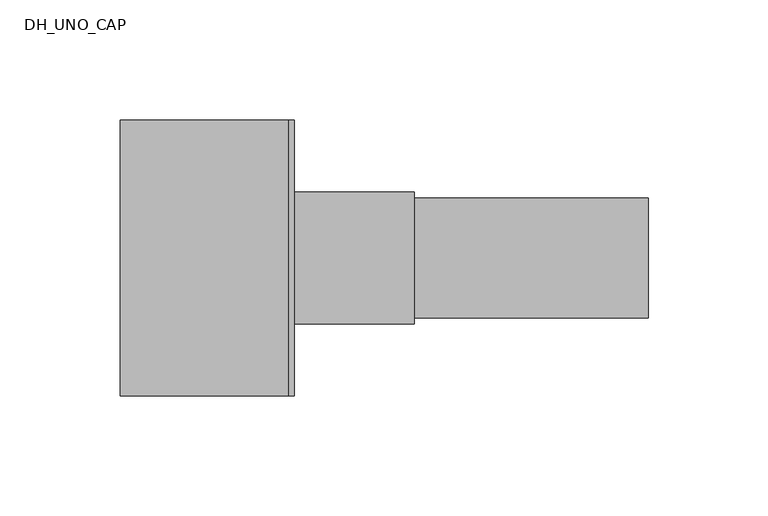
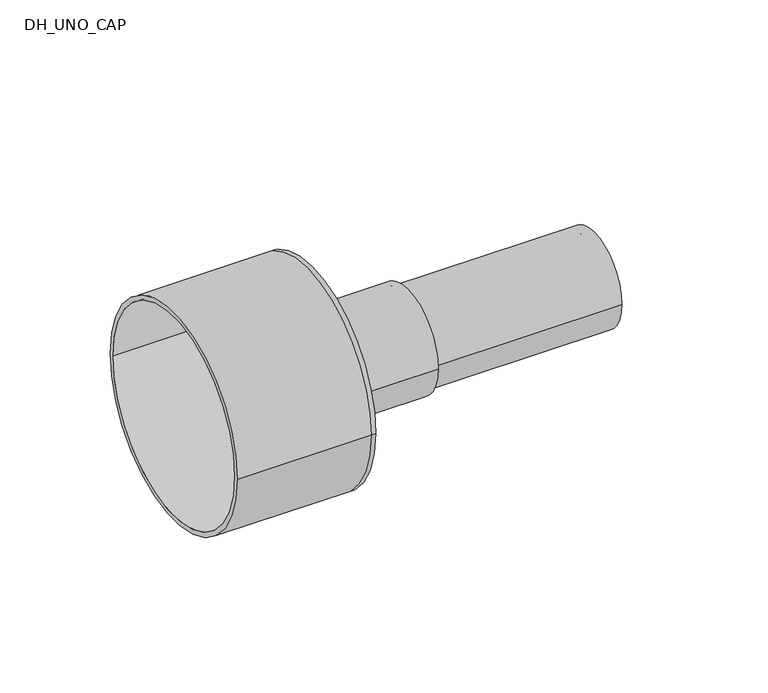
"""IFC4 building model written with IfcOpenShell, lengths in millimetres: pipe fitting geometry, DH_UNO_CAP : INSULPEX UNO 11 COOL - Rubber Cap."""

import ifcopenshell
import ifcopenshell.guid

model = None  # the IFC model being written
_history = None  # IfcOwnerHistory: only IFC2X3 demands one
_inside = {}  # id of a spatial element -> (the spatial element, [elements in it])
_under = {}  # id of a project, library or spatial element -> (it, [spatial elements below it])
_declared = {}  # id of a project -> (the project, [libraries it declares])
_typed = {}  # id of a type object -> (the type object, [elements of that type])
_made_of = {}  # id of a material, layer set ... -> (it, [elements and type objects made of it])


def new_model(schema):
    """Start an empty IFC model of exactly this schema.

    Asked for "IFC4X3", IfcOpenShell would pick the latest addendum, in which some entities
    have other attributes; the version numbers below select the first issue.
    IFC2X3 requires an IfcOwnerHistory on every rooted entity: one is made here for all.
    """
    global model, _history
    if schema == "IFC4X3":
        model = ifcopenshell.file(schema_version=(4, 3, 0, 0))
    else:
        model = ifcopenshell.file(schema=schema)
    _inside.clear()
    _under.clear()
    _declared.clear()
    _typed.clear()
    _made_of.clear()
    _history = None
    if model.schema == "IFC2X3":
        org = make("IfcOrganization", Name="unknown")
        user = make(
            "IfcPersonAndOrganization",
            ThePerson=make("IfcPerson", FamilyName="unknown"),
            TheOrganization=org,
        )
        app = make(
            "IfcApplication",
            ApplicationDeveloper=org,
            Version="unknown",
            ApplicationFullName="unknown",
            ApplicationIdentifier="unknown",
        )
        _history = make(
            "IfcOwnerHistory",
            OwningUser=user,
            OwningApplication=app,
            ChangeAction="ADDED",
            CreationDate=0,
        )
    return model


def make(cls, **values):
    """One entity of the class cls with the attributes given. An attribute that is None is left unset."""
    return model.create_entity(
        cls, **{name: value for name, value in values.items() if value is not None}
    )


def rooted(cls, **values):
    """An entity with a GlobalId (a new one), such as an element, a storey or a relation."""
    return make(cls, GlobalId=ifcopenshell.guid.new(), OwnerHistory=_history, **values)


def si_unit(unit_type, name, prefix=None):
    """IfcSIUnit, for example si_unit("LENGTHUNIT", "METRE", prefix="MILLI")."""
    return make("IfcSIUnit", UnitType=unit_type, Prefix=prefix, Name=name)


def assignment(units):
    """IfcUnitAssignment: the units of a project."""
    return None if units is None else make("IfcUnitAssignment", Units=units)


def point(xyz):
    """IfcCartesianPoint."""
    return None if xyz is None else make("IfcCartesianPoint", Coordinates=xyz)


def direction(xyz):
    """IfcDirection."""
    return None if xyz is None else make("IfcDirection", DirectionRatios=xyz)


def frame(location, z_axis=None, x_axis=None):
    """IfcAxis2Placement3D, a coordinate frame: its origin and axes. An axis left out is left unset."""
    return make(
        "IfcAxis2Placement3D",
        Location=point(location),
        Axis=direction(z_axis),
        RefDirection=direction(x_axis),
    )


def frame_2d(location, x_axis=None):
    """IfcAxis2Placement2D, a coordinate frame in the plane: its origin and x axis."""
    return make(
        "IfcAxis2Placement2D", Location=point(location), RefDirection=direction(x_axis)
    )


def origin():
    """The frame at (0, 0, 0) with its axes left unset."""
    return frame((0.0, 0.0, 0.0))


def origin_2d():
    """The frame at (0, 0) in the plane with its x axis left unset."""
    return frame_2d((0.0, 0.0))


def place(relative_to, where):
    """IfcLocalPlacement: puts the frame where relative to a parent placement (None: the world)."""
    return make(
        "IfcLocalPlacement", PlacementRelTo=relative_to, RelativePlacement=where
    )


def context(
    kind, dimensions, precision=None, world=None, true_north=None, identifier=None
):
    """IfcGeometricRepresentationContext, for example the 3D "Model" context."""
    return make(
        "IfcGeometricRepresentationContext",
        ContextIdentifier=identifier,
        ContextType=kind,
        CoordinateSpaceDimension=dimensions,
        Precision=precision,
        WorldCoordinateSystem=world,
        TrueNorth=true_north,
    )


def project(units=None, contexts=None):
    """IfcProject with its units and contexts."""
    return rooted(
        "IfcProject",
        Name="project",
        RepresentationContexts=contexts,
        UnitsInContext=assignment(units),
    )


def spatial(cls, under=None, at=None, **own):
    """A site, building, storey or space (cls), placed at a placement, below another one or the project."""
    s = rooted(cls, ObjectPlacement=at, **own)
    if under is not None:
        _under.setdefault(under.id(), (under, []))[1].append(s)
    return s


def polyline(points):
    """IfcPolyline through the points."""
    return make("IfcPolyline", Points=[point(p) for p in points])


def circle_curve(where, radius):
    """IfcCircle in the frame where."""
    return make("IfcCircle", Position=where, Radius=radius)


def trimmed(basis, trim1, trim2, sense, master):
    """IfcTrimmedCurve: the piece of a basis curve between two trims."""
    return make(
        "IfcTrimmedCurve",
        BasisCurve=basis,
        Trim1=trim1,
        Trim2=trim2,
        SenseAgreement=sense,
        MasterRepresentation=master,
    )


def segment(curve, same_sense, transition):
    """IfcCompositeCurveSegment."""
    return make(
        "IfcCompositeCurveSegment",
        Transition=transition,
        SameSense=same_sense,
        ParentCurve=curve,
    )


def composite_curve(segments, self_intersect=None):
    """IfcCompositeCurve: segments joined end to end."""
    return make("IfcCompositeCurve", Segments=segments, SelfIntersect=self_intersect)


def outline(outer, holes=None, kind="AREA"):
    """IfcArbitraryClosedProfileDef: a profile drawn as a closed curve; with holes, ...WithVoids."""
    if holes is None:
        return make("IfcArbitraryClosedProfileDef", ProfileType=kind, OuterCurve=outer)
    return make(
        "IfcArbitraryProfileDefWithVoids",
        ProfileType=kind,
        OuterCurve=outer,
        InnerCurves=holes,
    )


def extrude(swept, where, along, depth):
    """IfcExtrudedAreaSolid: the profile swept, set in the frame where, extruded along a direction by depth."""
    return make(
        "IfcExtrudedAreaSolid",
        SweptArea=swept,
        Position=where,
        ExtrudedDirection=direction(along),
        Depth=depth,
    )


def shape(context_of_items, identifier, shape_type, items):
    """IfcShapeRepresentation: the items that make up one representation, for example the "Body"."""
    return make(
        "IfcShapeRepresentation",
        ContextOfItems=context_of_items,
        RepresentationIdentifier=identifier,
        RepresentationType=shape_type,
        Items=items,
    )


def source(mapping_origin, context_of_items, identifier, shape_type, items):
    """IfcRepresentationMap: a shape defined once, which mapped items show again and again."""
    return make(
        "IfcRepresentationMap",
        MappingOrigin=mapping_origin,
        MappedRepresentation=shape(context_of_items, identifier, shape_type, items),
    )


def transform(
    local_origin,
    x_axis=None,
    y_axis=None,
    z_axis=None,
    scale=None,
    scale2=None,
    scale3=None,
    uniform=True,
):
    """IfcCartesianTransformationOperator3D, or its non-uniform kind. x_axis, y_axis, z_axis: its Axis1, 2, 3."""
    if uniform:
        return make(
            "IfcCartesianTransformationOperator3D",
            Axis1=direction(x_axis),
            Axis2=direction(y_axis),
            LocalOrigin=point(local_origin),
            Scale=scale,
            Axis3=direction(z_axis),
        )
    return make(
        "IfcCartesianTransformationOperator3DnonUniform",
        Axis1=direction(x_axis),
        Axis2=direction(y_axis),
        LocalOrigin=point(local_origin),
        Scale=scale,
        Axis3=direction(z_axis),
        Scale2=scale2,
        Scale3=scale3,
    )


def mapped(mapping_source, mapping_target):
    """IfcMappedItem: shows the shape of a source again, moved by a transform."""
    return make(
        "IfcMappedItem", MappingSource=mapping_source, MappingTarget=mapping_target
    )


def made_of(thing, what):
    """Note that an element or type object is made of a material, layer set ...; save() writes the relation."""
    if what is not None:
        _made_of.setdefault(what.id(), (what, []))[1].append(thing)
    return thing


def element(
    cls,
    number,
    at=None,
    inside=None,
    cuts=None,
    type_object=None,
    material=None,
    context=None,
    identifier="Body",
    shape_type=None,
    held_by="IfcProductDefinitionShape",
    body=None,
    shapes=None,
    **own,
):
    """One element of the class cls, such as IfcWall. Its Tag is "e" and its number.

    at: its placement. inside: the storey or other place that contains it. cuts: it is an
    opening in that element (IfcRelVoidsElement). A single representation is given by context,
    identifier, shape_type and body (its items); several are given by shapes. held_by: the class
    of the entity that holds the representations. save() writes the other relations.
    """
    e = rooted(cls, Tag="e%d" % number, ObjectPlacement=at, **own)
    if body is not None:
        shapes = [shape(context, identifier, shape_type, body)]
    if shapes is not None:
        e.Representation = make(held_by, Representations=shapes)
    if inside is not None:
        _inside.setdefault(inside.id(), (inside, []))[1].append(e)
    if cuts is not None:
        rooted(
            "IfcRelVoidsElement", RelatingBuildingElement=cuts, RelatedOpeningElement=e
        )
    if type_object is not None:
        _typed.setdefault(type_object.id(), (type_object, []))[1].append(e)
    return made_of(e, material)


def aggregate(whole, parts):
    """IfcRelAggregates: a whole, such as a stair, and the parts it consists of."""
    return rooted("IfcRelAggregates", RelatingObject=whole, RelatedObjects=parts)


def save(model, path):
    """Write the relations noted so far, then the file.

    IfcRelAggregates (storeys below a building ...), IfcRelContainedInSpatialStructure (elements
    in a storey), IfcRelDefinesByType, IfcRelAssociatesMaterial and IfcRelDeclares: one each for
    every whole, place, type object, material and project.
    """
    for whole, parts in _under.values():
        aggregate(whole, parts)
    for where, things in _inside.values():
        rooted(
            "IfcRelContainedInSpatialStructure",
            RelatedElements=things,
            RelatingStructure=where,
        )
    for kind, things in _typed.values():
        rooted("IfcRelDefinesByType", RelatedObjects=things, RelatingType=kind)
    for what, things in _made_of.values():
        rooted("IfcRelAssociatesMaterial", RelatedObjects=things, RelatingMaterial=what)
    for by, libraries in _declared.values():
        rooted("IfcRelDeclares", RelatingContext=by, RelatedDefinitions=libraries)
    model.write(path)


def plane_surface(at):
    """IfcPlane: the flat surface through the origin of the frame at, square to its z axis."""
    return make("IfcPlane", Position=at)


def cylinder_surface(at, radius):
    """IfcCylindricalSurface: all points at the distance radius from the z axis of the frame at."""
    return make("IfcCylindricalSurface", Position=at, Radius=radius)


def revolved_surface(curve, axis_point, axis_direction):
    """IfcSurfaceOfRevolution: the curve turned about the line through axis_point along axis_direction."""
    return make(
        "IfcSurfaceOfRevolution",
        SweptCurve=make("IfcArbitraryOpenProfileDef", ProfileType="CURVE", Curve=curve),
        AxisPosition=make("IfcAxis1Placement", Location=point(axis_point), Axis=direction(axis_direction)),
    )


def advanced_brep(points, edges, surfaces, faces):
    """IfcAdvancedBrep: a solid bounded by faces that lie on surfaces and meet in shared edges.

    An edge is (start, end): straight between two places in points (the first is 0);
    or (start, end, curve); or (start, end, curve, False) where it runs against its curve.
    A face is (place in surfaces, loops), or (place, loops, False) where it looks against
    its surface's normal. A loop lists edges by number (the first is 1), with a minus sign
    where the edge is run from its end to its start. The first loop is the outer one.
    """
    corners = [point(p) for p in points]
    vertices = [make("IfcVertexPoint", VertexGeometry=c) for c in corners]
    made = []
    for start, end, *more in edges:
        made.append(
            make(
                "IfcEdgeCurve",
                EdgeStart=vertices[start],
                EdgeEnd=vertices[end],
                EdgeGeometry=more[0] if more else make("IfcPolyline", Points=[corners[start], corners[end]]),
                SameSense=more[1] if len(more) > 1 else True,
            )
        )
    hull = []
    for where, loops, *sense in faces:
        bounds = []
        for j, loop in enumerate(loops):
            ring = [make("IfcOrientedEdge", EdgeElement=made[abs(k) - 1], Orientation=k > 0) for k in loop]
            bounds.append(
                make(
                    "IfcFaceOuterBound" if j == 0 else "IfcFaceBound",
                    Bound=make("IfcEdgeLoop", EdgeList=ring),
                    Orientation=True,
                )
            )
        hull.append(make("IfcAdvancedFace", Bounds=bounds, FaceSurface=surfaces[where], SameSense=sense[0] if sense else True))
    return make("IfcAdvancedBrep", Outer=make("IfcClosedShell", CfsFaces=hull))


def dh_uno_cap_b74b09e4(model_context):
    return source(origin(), model_context, "Body", "SolidModel", [
        extrude(outline(composite_curve([segment(trimmed(circle_curve(origin_2d(), 25.0), [point((-25.0, 0.0))], [point((25.0, 0.0))], False, "CARTESIAN"), True, "CONTINUOUS"), segment(trimmed(circle_curve(origin_2d(), 25.0), [point((25.0, 0.0))], [point((-25.0, 0.0))], False, "CARTESIAN"), True, "CONTINUOUS")], self_intersect=False), holes=[composite_curve([segment(trimmed(circle_curve(origin_2d(), 20.4), [point((-20.4, 0.0))], [point((20.4, 0.0))], True, "CARTESIAN"), True, "CONTINUOUS"), segment(trimmed(circle_curve(origin_2d(), 20.4), [point((20.4, 0.0))], [point((-20.4, 0.0))], True, "CARTESIAN"), True, "CONTINUOUS")], self_intersect=False)]), frame((0.0, 0.0, 0.0), z_axis=(1.0, 0.0, 0.0), x_axis=(0.0, 1.0, 0.0)), (0.0, 0.0, 1.0), 150.0),
        advanced_brep(
        [(-70.0, -57.5, 0.0), (-70.0, 57.5, 0.0), (-70.0, -55.0, 0.0), (-70.0, 55.0, 0.0), (0.0, -55.0, 0.0), (0.0, 55.0, 0.0), (0.0, -57.5, 0.0), (0.0, 57.5, 0.0), (0.0, 25.0, 0.0), (0.0, -25.0, 0.0), (2.5, -57.5, 0.0), (2.5, 57.5, 0.0), (2.5, -25.0, 0.0), (2.5, 25.0, 0.0)],
        [
            (0, 1, circle_curve(frame((-70.0, 0.0, 0.0), z_axis=(-1.0, 0.0, 0.0), x_axis=(0.0, 1.0, 0.0)), 57.5)),
            (1, 0, circle_curve(frame((-70.0, 0.0, 0.0), z_axis=(-1.0, 0.0, 0.0), x_axis=(0.0, 1.0, 0.0)), 57.5)),
            (2, 3, circle_curve(frame((-70.0, 0.0, 0.0), z_axis=(1.0, 0.0, 0.0), x_axis=(0.0, 1.0, 0.0)), 55.0)),
            (3, 2, circle_curve(frame((-70.0, 0.0, 0.0), z_axis=(1.0, 0.0, 0.0), x_axis=(0.0, 1.0, 0.0)), 55.0)),
            (2, 4),
            (4, 5, circle_curve(frame((0.0, 0.0, 0.0), z_axis=(1.0, 0.0, 0.0), x_axis=(0.0, 1.0, 0.0)), 55.0)),
            (5, 3),
            (5, 4, circle_curve(frame((0.0, 0.0, 0.0), z_axis=(1.0, 0.0, 0.0), x_axis=(0.0, 1.0, 0.0)), 55.0)),
            (0, 6),
            (6, 7, circle_curve(frame((0.0, 0.0, 0.0), z_axis=(-1.0, 0.0, 0.0), x_axis=(0.0, 1.0, 0.0)), 57.5)),
            (7, 1),
            (7, 6, circle_curve(frame((0.0, 0.0, 0.0), z_axis=(-1.0, 0.0, 0.0), x_axis=(0.0, 1.0, 0.0)), 57.5)),
            (8, 9, circle_curve(frame((0.0, 0.0, 0.0), z_axis=(1.0, 0.0, 0.0), x_axis=(0.0, 1.0, 0.0)), 25.0)),
            (9, 8, circle_curve(frame((0.0, 0.0, 0.0), z_axis=(1.0, 0.0, 0.0), x_axis=(0.0, 1.0, 0.0)), 25.0)),
            (10, 11, circle_curve(frame((2.5, 0.0, 0.0), z_axis=(1.0, 0.0, 0.0), x_axis=(0.0, 1.0, 0.0)), 57.5)),
            (11, 10, circle_curve(frame((2.5, 0.0, 0.0), z_axis=(1.0, 0.0, 0.0), x_axis=(0.0, 1.0, 0.0)), 57.5)),
            (12, 13, circle_curve(frame((2.5, 0.0, 0.0), z_axis=(-1.0, 0.0, 0.0), x_axis=(0.0, 1.0, 0.0)), 25.0)),
            (13, 12, circle_curve(frame((2.5, 0.0, 0.0), z_axis=(-1.0, 0.0, 0.0), x_axis=(0.0, 1.0, 0.0)), 25.0)),
            (11, 7),
            (6, 10),
            (8, 13),
            (12, 9),
        ],
        [
            plane_surface(frame((-70.0, 0.0, 0.0), z_axis=(-1.0, 0.0, 0.0), x_axis=(0.0, 0.0, 1.0))),
            revolved_surface(polyline([(0.0, 55.0, 0.0), (-70.0, 55.0, 0.0)]), (-70.0, 0.0, 0.0), (1.0, 0.0, 0.0)),
            cylinder_surface(frame((-70.0, 0.0, 0.0), z_axis=(-1.0, 0.0, 0.0), x_axis=(0.0, 1.0, 0.0)), 57.5),
            plane_surface(frame((0.0, 0.0, 0.0), z_axis=(-1.0, 0.0, 0.0), x_axis=(0.0, 0.0, 1.0))),
            plane_surface(frame((2.5, 0.0, 0.0), z_axis=(1.0, 0.0, 0.0), x_axis=(0.0, 0.0, 1.0))),
            cylinder_surface(frame((0.0, 0.0, 0.0), z_axis=(-1.0, 0.0, 0.0), x_axis=(0.0, 1.0, 0.0)), 57.5),
            revolved_surface(polyline([(0.0, 25.0, 0.0), (2.5, 25.0, 0.0)]), (0.0, 0.0, 0.0), (-1.0, 0.0, 0.0)),
        ],
        [
            (0, [[1, 2], [3, 4]]),
            (1, [[-3, 5, 6, 7]]),
            (1, [[-4, -7, 8, -5]]),
            (2, [[-1, 9, 10, 11]]),
            (2, [[-2, -11, 12, -9]]),
            (3, [[-6, -8], [13, 14]]),
            (4, [[15, 16], [17, 18]]),
            (5, [[-16, 19, -10, 20]]),
            (5, [[-15, -20, -12, -19]]),
            (6, [[21, -17, 22, -13]]),
            (6, [[-21, -14, -22, -18]]),
        ],
    ),
        extrude(outline(composite_curve([segment(trimmed(circle_curve(origin_2d(), 27.5), [point((-27.5, 0.0))], [point((27.5, 0.0))], False, "CARTESIAN"), True, "CONTINUOUS"), segment(trimmed(circle_curve(origin_2d(), 27.5), [point((27.5, 0.0))], [point((-27.5, 0.0))], False, "CARTESIAN"), True, "CONTINUOUS")], self_intersect=False), holes=[composite_curve([segment(trimmed(circle_curve(origin_2d(), 25.0), [point((-25.0, 0.0))], [point((25.0, 0.0))], True, "CARTESIAN"), True, "CONTINUOUS"), segment(trimmed(circle_curve(origin_2d(), 25.0), [point((25.0, 0.0))], [point((-25.0, 0.0))], True, "CARTESIAN"), True, "CONTINUOUS")], self_intersect=False)]), frame((2.5, 0.0, 0.0), z_axis=(1.0, 0.0, 0.0), x_axis=(0.0, 1.0, 0.0)), (0.0, 0.0, 1.0), 50.0),
    ])


if __name__ == "__main__":
    model = new_model("IFC4")
    model_context = context("Model", 3, world=origin())
    ifc_project = project(units=[si_unit("LENGTHUNIT", "METRE", prefix="MILLI")], contexts=[model_context])
    site = spatial("IfcSite", under=ifc_project)
    building = spatial("IfcBuilding", under=site)
    placement = place(None, origin())
    dh_uno_cap_shape = dh_uno_cap_b74b09e4(model_context)
    element("IfcPipeFitting", 1, ObjectType="DH_UNO_CAP : INSULPEX UNO 11 COOL - Rubber Cap", at=placement, inside=building, context=model_context, shape_type="MappedRepresentation", body=[
        mapped(dh_uno_cap_shape, transform((0.0, 0.0, 0.0), x_axis=(1.0, 0.0, 0.0), y_axis=(0.0, 1.0, 0.0), z_axis=(0.0, 0.0, 1.0))),
    ])
    save(model, "model.ifc")
